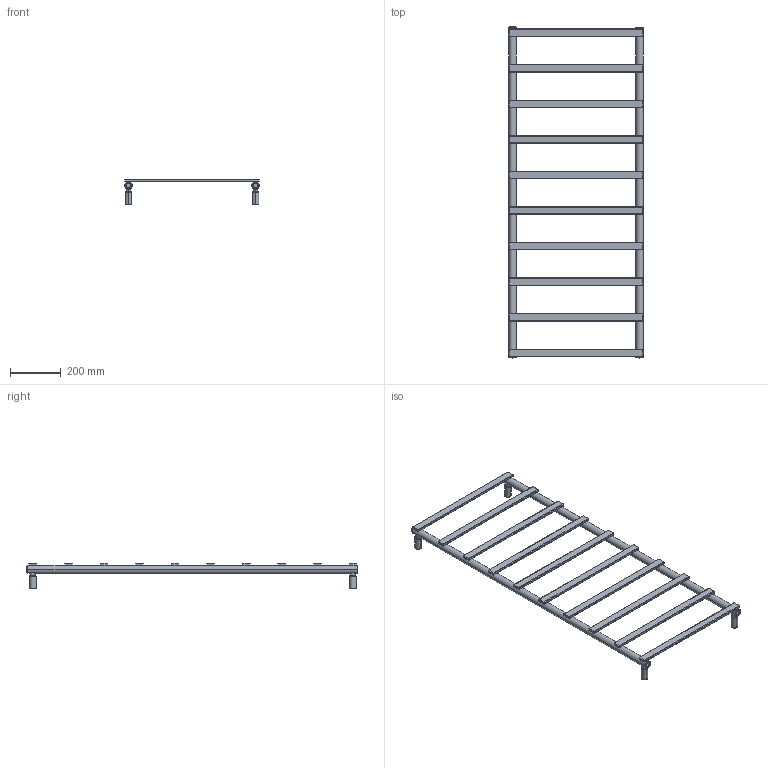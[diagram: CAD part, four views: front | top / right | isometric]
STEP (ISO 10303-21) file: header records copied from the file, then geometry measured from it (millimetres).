
FILE_DESCRIPTION((''),'2;1');
FILE_NAME('3551680400005_3D_SITO_ASM','2023-12-04T08:56:39',('PC132'),(''),'CREO PARAMETRIC BY PTC INC, 2023092','CREO PARAMETRIC BY PTC INC, 2023092','');
FILE_SCHEMA(('AUTOMOTIVE_DESIGN { 1 0 10303 214 1 1 1 1 }'));
Length unit declared in the file: millimetre
Products named in the file (3): 2551680500005_3D_SITO; 1041001240010; 3551680400005_3D_SITO_ASM
Assembly tree (2 placements, depth 2):
  3551680400005_3D_SITO_ASM
    2551680500005_3D_SITO
    1041001240010
Bounding box: 530 x 1306.6 x 100 mm (x, y, z)
Volume: 3518398.1 mm3; surface area: 687727.4 mm2
Topology: 14 solids, 14 shells, 384 faces, 743 edges, 400 vertices
Faces by surface type: cylinder 158, plane 106, bspline 80, torus 34, cone 6
Entity records: 33565 total; most frequent: CARTESIAN_POINT 21243, DIRECTION 1545, ORIENTED_EDGE 1486, PRESENTATION_STYLE_ASSIGNMENT 821, STYLED_ITEM 817, CURVE_STYLE 803, EDGE_CURVE 743, AXIS2_PLACEMENT_3D 574
